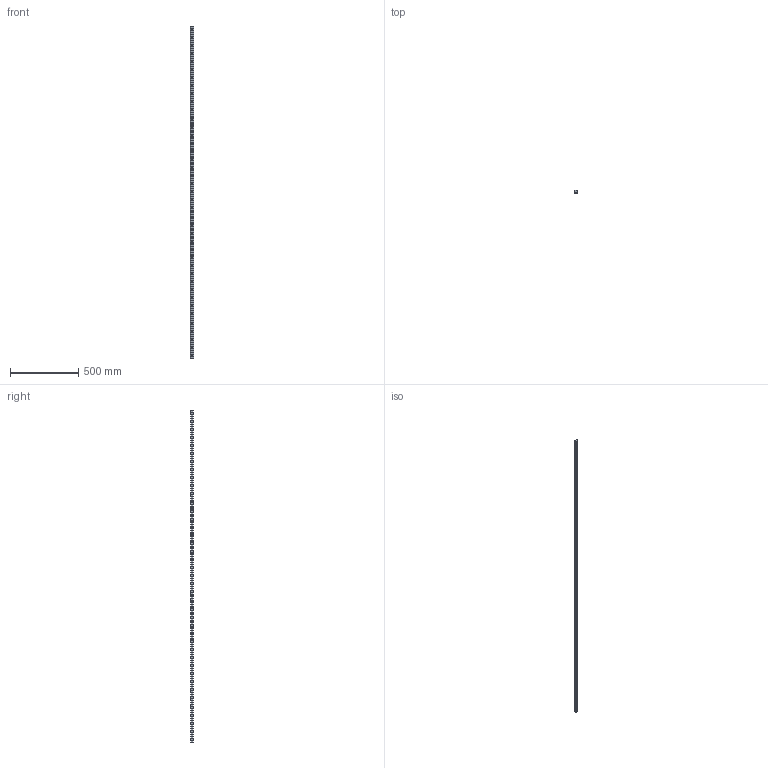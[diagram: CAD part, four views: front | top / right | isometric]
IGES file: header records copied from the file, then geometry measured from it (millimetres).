
Start section: SolidWorks IGES file using analytic representation for surfaces
Global section: file name: C:\Users\IanO\Desktop\L1016_v2\L1016.BL25_v2\L1016.BL25_v2_20160611_IGES\L1016.BL25-2440.igs; native system: SolidWorks 2017; preprocessor: SolidWorks 2017; author: IanO; date: 190612.131125; units: millimetre
Bounding box: 23 x 19.2 x 2440 mm (x, y, z)
Surface area: 231025.3 mm2 (no closed solid volume)
Topology: 0 solids, 0 shells, 231 faces, 6072 edges, 6072 vertices
Faces by surface type: revolution 168, bspline 63
